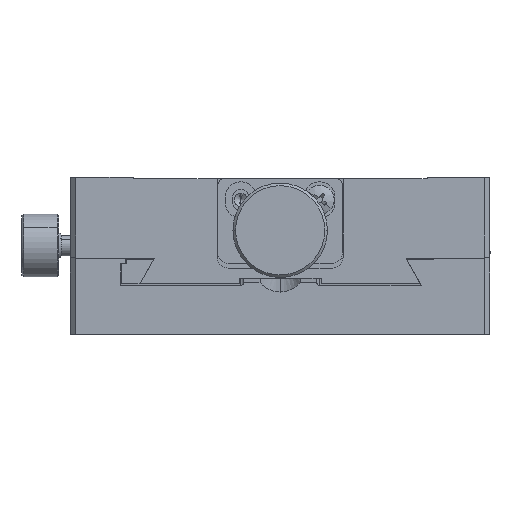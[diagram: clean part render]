
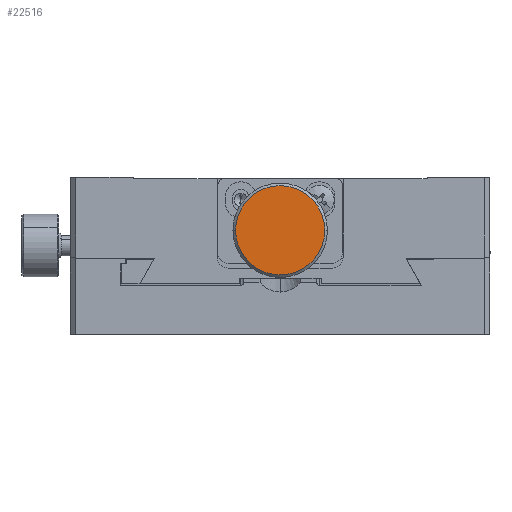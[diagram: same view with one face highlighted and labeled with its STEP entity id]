
A CAD part, left-side view. The second image highlights one B-rep face of the part: STEP entity #22516.
In plain terms, the highlighted planar face has unit normal (-1, 0, 0).
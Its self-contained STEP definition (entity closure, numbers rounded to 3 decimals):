
#2163 = DIRECTION ( 'NONE',  ( -1., 0., 0. ) ) ;
#4206 = ORIENTED_EDGE ( 'NONE', *, *, #29648, .T. ) ;
#4376 = EDGE_CURVE ( 'NONE', #8906, #44992, #19263, .T. ) ;
#4797 = AXIS2_PLACEMENT_3D ( 'NONE', #6601, #35499, #19471 ) ;
#6601 = CARTESIAN_POINT ( 'NONE',  ( -65.5, 0., 149.9 ) ) ;
#8906 = VERTEX_POINT ( 'NONE', #26788 ) ;
#12110 = PLANE ( 'NONE',  #31340 ) ;
#12373 = DIRECTION ( 'NONE',  ( 0., 1., 0. ) ) ;
#17735 = DIRECTION ( 'NONE',  ( 0., 1., 0. ) ) ;
#18672 = ORIENTED_EDGE ( 'NONE', *, *, #4376, .T. ) ;
#19263 = CIRCLE ( 'NONE', #32946, 8.5 ) ;
#19471 = DIRECTION ( 'NONE',  ( 0., 1., 0. ) ) ;
#22516 = ADVANCED_FACE ( 'NONE', ( #24412 ), #12110, .F. ) ;
#24412 = FACE_OUTER_BOUND ( 'NONE', #52593, .T. ) ;
#26788 = CARTESIAN_POINT ( 'NONE',  ( -65.5, 8.5, 149.9 ) ) ;
#28419 = CARTESIAN_POINT ( 'NONE',  ( -65.5, 0., 149.9 ) ) ;
#29648 = EDGE_CURVE ( 'NONE', #44992, #8906, #50249, .T. ) ;
#31340 = AXIS2_PLACEMENT_3D ( 'NONE', #28419, #41003, #12373 ) ;
#32820 = CARTESIAN_POINT ( 'NONE',  ( -65.5, -8.5, 149.9 ) ) ;
#32946 = AXIS2_PLACEMENT_3D ( 'NONE', #38828, #2163, #17735 ) ;
#35499 = DIRECTION ( 'NONE',  ( -1., 0., 0. ) ) ;
#38828 = CARTESIAN_POINT ( 'NONE',  ( -65.5, 0., 149.9 ) ) ;
#41003 = DIRECTION ( 'NONE',  ( 1., 0., 0. ) ) ;
#44992 = VERTEX_POINT ( 'NONE', #32820 ) ;
#50249 = CIRCLE ( 'NONE', #4797, 8.5 ) ;
#52593 = EDGE_LOOP ( 'NONE', ( #18672, #4206 ) ) ;
